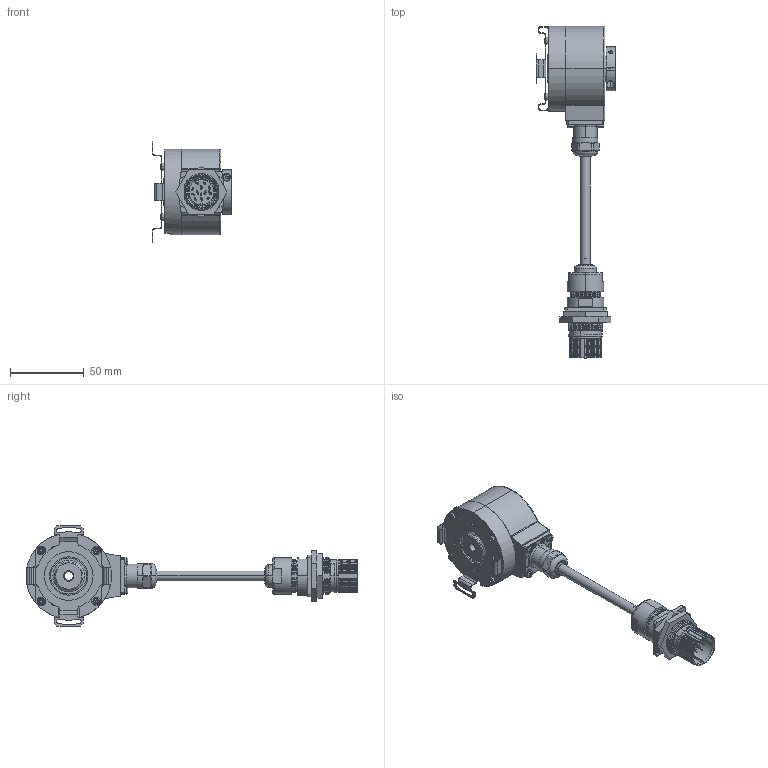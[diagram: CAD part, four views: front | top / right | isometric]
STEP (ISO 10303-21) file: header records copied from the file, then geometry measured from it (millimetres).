
FILE_DESCRIPTION (( 'STEP AP203' ), '1' );
FILE_NAME ('K58I.OXX.XXXXX.XC12506.6XR14.XXXX.step', '2025-12-08T11:20:34', ( '' ), ( '' ), 'SwSTEP 2.0', 'SolidWorks 2021', '' );
FILE_SCHEMA (( 'CONFIG_CONTROL_DESIGN' ));
Length unit declared in the file: millimetre
Products named in the file (1): K58I.OXX.XXXXX.XC12506.6XR14.XXXX
Bounding box: 54.09 x 225.35 x 68 mm (x, y, z)
Volume: 140176 mm3; surface area: 61217.9 mm2
Topology: 33 solids, 33 shells, 2117 faces, 5374 edges, 3417 vertices
Faces by surface type: cylinder 818, plane 658, cone 396, bspline 124, torus 79, sphere 42
Entity records: 71157 total; most frequent: CARTESIAN_POINT 20869, ORIENTED_EDGE 10672, DIRECTION 10416, EDGE_CURVE 5336, AXIS2_PLACEMENT_3D 4092, VERTEX_POINT 3417, EDGE_LOOP 2311, LINE 2232
